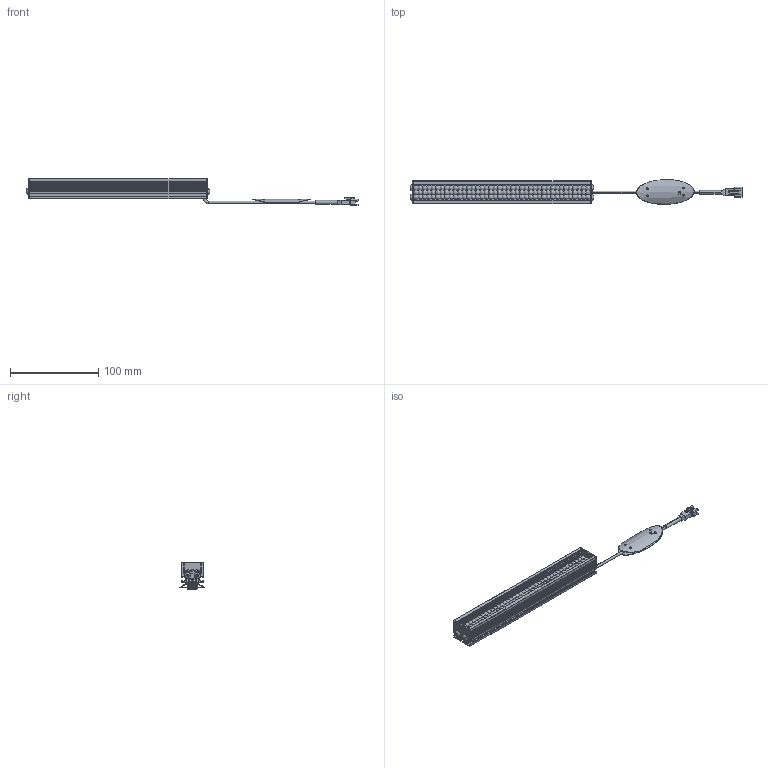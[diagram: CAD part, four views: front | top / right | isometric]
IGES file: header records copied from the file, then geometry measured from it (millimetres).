
Start section: 3D InterOp IGES (v. 2019 1.0.2), Spatial Corp. Copyright (c) 1999-2017.
Global section: file name: VBA-20015_DRAWING_3D.iges; native system: Spatial Corp.; preprocessor: 3D InterOp ACIS/IGES; author: Noname; organization: Noname; date: 20230914.095746; units: millimetre
Bounding box: 376 x 28 x 30.5 mm (x, y, z)
Surface area: 68453.1 mm2 (no closed solid volume)
Topology: 0 solids, 0 shells, 1139 faces, 6556 edges, 6556 vertices
Faces by surface type: extrusion 619, revolution 514, bspline 6
